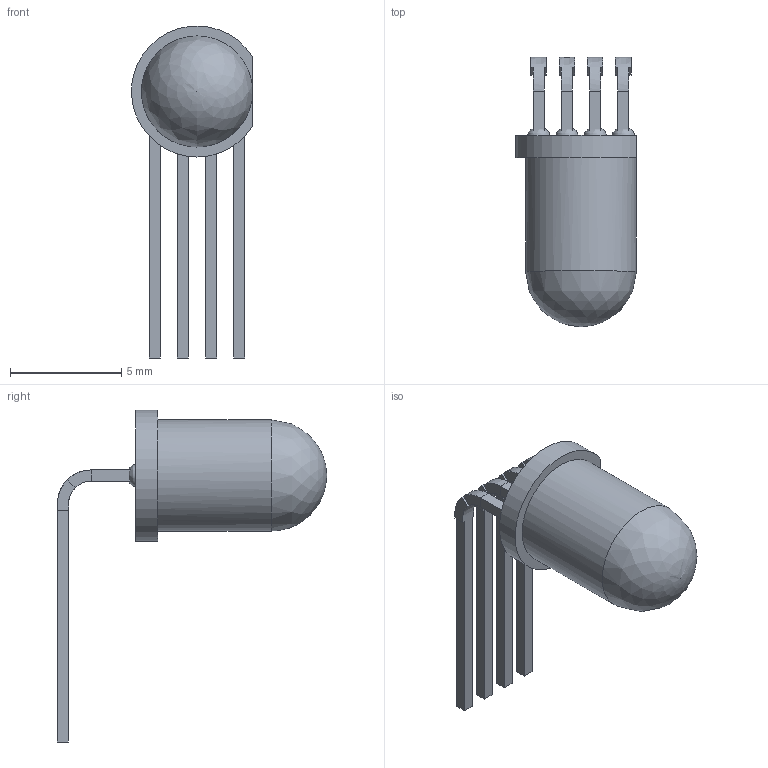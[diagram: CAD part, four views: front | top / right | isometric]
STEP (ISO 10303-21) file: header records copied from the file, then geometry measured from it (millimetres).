
FILE_DESCRIPTION(/* description */ (''),/* implementation_level */ '2;1');
FILE_NAME(/* name */ 'LEFD9D~1',/* time_stamp */ '2022-11-08T16:31:19+01:00',/* author */ (''),/* organization */ (''),/* preprocessor_version */ 'ST-DEVELOPER v16.5',/* originating_system */ '',/* authorisation */ '');
FILE_SCHEMA (('AUTOMOTIVE_DESIGN'));
Length unit declared in the file: millimetre
Products named in the file (1): Document
Bounding box: 5.45 x 12.12 x 14.95 mm (x, y, z)
Volume: 160.1 mm3; surface area: 307.5 mm2
Topology: 1 solids, 6 shells, 80 faces, 205 edges, 131 vertices
Faces by surface type: plane 48, bspline 29, cylinder 3
Full cylindrical faces by diameter (mm): 5 x1
Entity records: 4901 total; most frequent: CARTESIAN_POINT 3492, ORIENTED_EDGE 383, EDGE_CURVE 200, B_SPLINE_CURVE_WITH_KNOTS 179, VERTEX_POINT 131, EDGE_LOOP 84, ADVANCED_FACE 80, FACE_OUTER_BOUND 80
